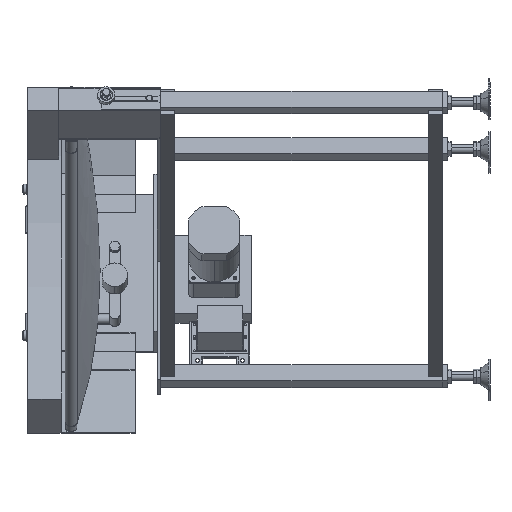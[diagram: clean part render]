
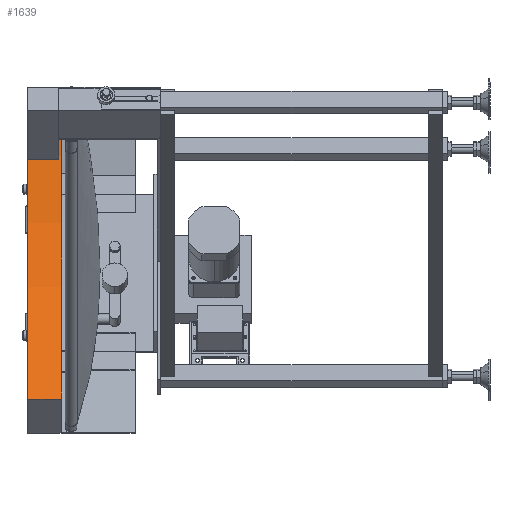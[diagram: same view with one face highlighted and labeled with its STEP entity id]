
A CAD part, left-side view. The second image highlights one B-rep face of the part: STEP entity #1639.
In plain terms, the highlighted cylindrical face has radius 780 mm (diameter 1560 mm), a partial arc.
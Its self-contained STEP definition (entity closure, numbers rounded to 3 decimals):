
#1639=ADVANCED_FACE('',(#4497),#4496,.F.);
#4496=CYLINDRICAL_SURFACE('',#16131,780.);
#4497=FACE_OUTER_BOUND('',#16132,.T.);
#16128=CARTESIAN_POINT('',(0.,0.,0.));
#16129=DIRECTION('',(0.,-1.,0.));
#16130=DIRECTION('',(-1.,0.,0.));
#16131=AXIS2_PLACEMENT_3D('',#16128,#16129,#16130);
#16132=EDGE_LOOP('',(#21855,#21856,#21857,#21858));
#21855=ORIENTED_EDGE('',*,*,#26477,.F.);
#21856=ORIENTED_EDGE('',*,*,#26478,.F.);
#21857=ORIENTED_EDGE('',*,*,#26479,.T.);
#21858=ORIENTED_EDGE('',*,*,#26454,.F.);
#26454=EDGE_CURVE('',#31746,#31747,#31748,.T.);
#26477=EDGE_CURVE('',#31907,#31746,#31908,.T.);
#26478=EDGE_CURVE('',#31914,#31907,#31915,.T.);
#26479=EDGE_CURVE('',#31914,#31747,#31921,.T.);
#31746=VERTEX_POINT('',#48789);
#31747=VERTEX_POINT('',#48790);
#31748=CIRCLE('',#48794,780.);
#31907=VERTEX_POINT('',#48889);
#31908=LINE('',#48890,#48891);
#31914=VERTEX_POINT('',#48893);
#31915=CIRCLE('',#48897,780.);
#31921=LINE('',#48898,#48899);
#48789=CARTESIAN_POINT('',(551.543,68.,-551.543));
#48790=CARTESIAN_POINT('',(780.,68.,0.));
#48791=CARTESIAN_POINT('',(0.,68.,0.));
#48792=DIRECTION('',(0.,-1.,0.));
#48793=DIRECTION('',(-1.,0.,0.));
#48794=AXIS2_PLACEMENT_3D('',#48791,#48792,#48793);
#48889=CARTESIAN_POINT('',(551.543,8.,-551.543));
#48890=CARTESIAN_POINT('',(551.543,8.,-551.543));
#48891=VECTOR('',#48892,60.);
#48892=DIRECTION('',(0.,1.,0.));
#48893=CARTESIAN_POINT('',(780.,8.,0.));
#48894=CARTESIAN_POINT('',(0.,8.,0.));
#48895=DIRECTION('',(0.,1.,0.));
#48896=DIRECTION('',(1.,0.,0.));
#48897=AXIS2_PLACEMENT_3D('',#48894,#48895,#48896);
#48898=CARTESIAN_POINT('',(780.,8.,0.));
#48899=VECTOR('',#48900,60.);
#48900=DIRECTION('',(0.,1.,0.));
